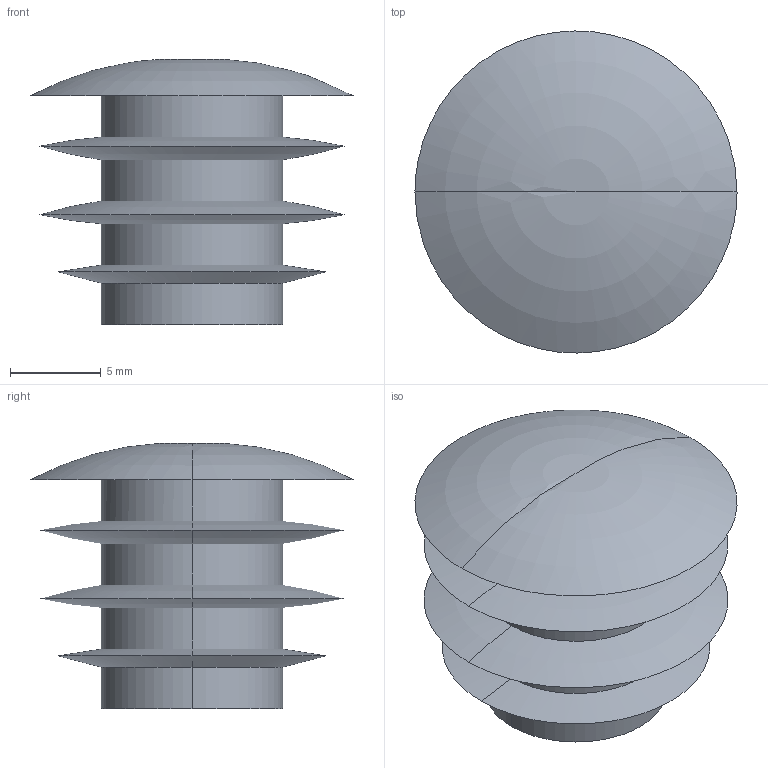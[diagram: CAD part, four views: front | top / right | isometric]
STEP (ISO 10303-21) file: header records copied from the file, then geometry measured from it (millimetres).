
FILE_DESCRIPTION (( 'STEP AP214' ), '1' );
FILE_NAME ('1.1048 Peitetulppa 15.STEP', '2025-09-03T09:02:16', ( '' ), ( '' ), 'SwSTEP 2.0', 'SolidWorks 2025', '' );
FILE_SCHEMA (( 'AUTOMOTIVE_DESIGN' ));
Length unit declared in the file: millimetre
Products named in the file (1): 1.1048 Peitetulppa 15
Bounding box: 17.75 x 17.75 x 14.6 mm (x, y, z)
Surface area: 1839.7 mm2 (no closed solid volume)
Topology: 0 solids, 1 shells, 26 faces, 54 edges, 29 vertices
Faces by surface type: torus 14, cylinder 10, plane 2
Entity records: 1100 total; most frequent: CARTESIAN_POINT 660, ORIENTED_EDGE 102, DIRECTION 54, B_SPLINE_CURVE_WITH_KNOTS 52, EDGE_CURVE 52, VERTEX_POINT 29, EDGE_LOOP 28, AXIS2_PLACEMENT_3D 27
